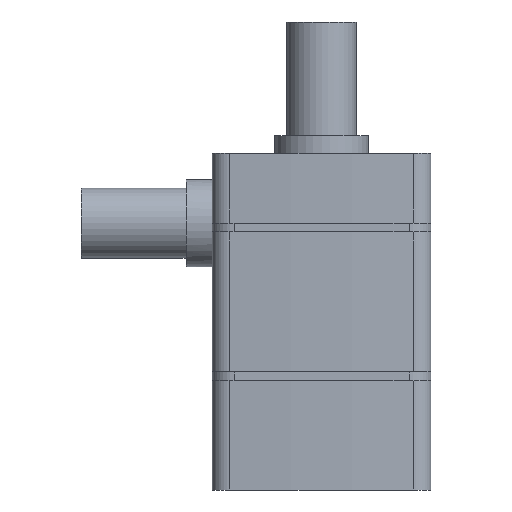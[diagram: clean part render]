
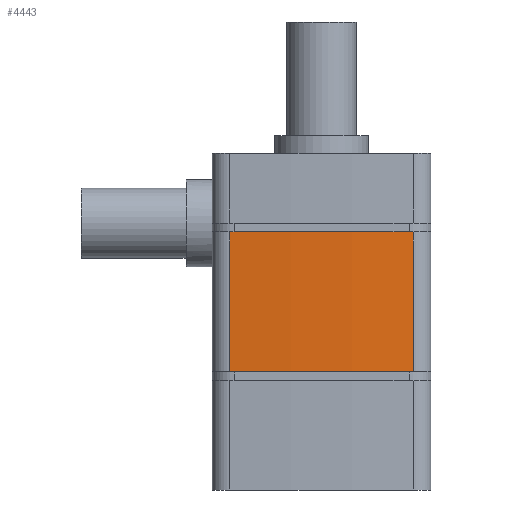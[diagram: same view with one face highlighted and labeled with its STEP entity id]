
A CAD part, front view. The second image highlights one B-rep face of the part: STEP entity #4443.
In plain terms, the highlighted cylindrical face has radius 137.567 mm (diameter 275.134 mm), a partial arc.
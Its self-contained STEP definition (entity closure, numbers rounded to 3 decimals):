
#1307 = CYLINDRICAL_SURFACE('',#1308,2.);
#1308 = AXIS2_PLACEMENT_3D('',#1309,#1310,#1311);
#1309 = CARTESIAN_POINT('',(10.5,-14.,0.));
#1310 = DIRECTION('',(-0.,-0.,-1.));
#1311 = DIRECTION('',(1.,0.,0.));
#1804 = CYLINDRICAL_SURFACE('',#1805,2.);
#1805 = AXIS2_PLACEMENT_3D('',#1806,#1807,#1808);
#1806 = CARTESIAN_POINT('',(-10.5,-14.,0.));
#1807 = DIRECTION('',(-0.,-0.,-1.));
#1808 = DIRECTION('',(1.,0.,0.));
#3255 = VERTEX_POINT('',#3256);
#3256 = CARTESIAN_POINT('',(10.5,-16.,13.5));
#3271 = PLANE('',#3272);
#3272 = AXIS2_PLACEMENT_3D('',#3273,#3274,#3275);
#3273 = CARTESIAN_POINT('',(0.,-14.442,13.5));
#3274 = DIRECTION('',(0.,0.,1.));
#3275 = DIRECTION('',(1.,0.,0.));
#3287 = EDGE_CURVE('',#3255,#3288,#3290,.T.);
#3288 = VERTEX_POINT('',#3289);
#3289 = CARTESIAN_POINT('',(10.5,-16.,29.5));
#3290 = SURFACE_CURVE('',#3291,(#3295,#3302),.PCURVE_S1.);
#3291 = LINE('',#3292,#3293);
#3292 = CARTESIAN_POINT('',(10.5,-16.,0.));
#3293 = VECTOR('',#3294,1.);
#3294 = DIRECTION('',(0.,0.,1.));
#3295 = PCURVE('',#1307,#3296);
#3296 = DEFINITIONAL_REPRESENTATION('',(#3297),#3301);
#3297 = LINE('',#3298,#3299);
#3298 = CARTESIAN_POINT('',(-4.712,0.));
#3299 = VECTOR('',#3300,1.);
#3300 = DIRECTION('',(-0.,-1.));
#3301 = ( GEOMETRIC_REPRESENTATION_CONTEXT(2) 
PARAMETRIC_REPRESENTATION_CONTEXT() REPRESENTATION_CONTEXT('2D SPACE',''
  ) );
#3302 = PCURVE('',#3303,#3308);
#3303 = CYLINDRICAL_SURFACE('',#3304,137.567);
#3304 = AXIS2_PLACEMENT_3D('',#3305,#3306,#3307);
#3305 = CARTESIAN_POINT('',(0.,121.166,0.));
#3306 = DIRECTION('',(-0.,-0.,-1.));
#3307 = DIRECTION('',(1.,0.,0.));
#3308 = DEFINITIONAL_REPRESENTATION('',(#3309),#3313);
#3309 = LINE('',#3310,#3311);
#3310 = CARTESIAN_POINT('',(-4.789,0.));
#3311 = VECTOR('',#3312,1.);
#3312 = DIRECTION('',(-0.,-1.));
#3313 = ( GEOMETRIC_REPRESENTATION_CONTEXT(2) 
PARAMETRIC_REPRESENTATION_CONTEXT() REPRESENTATION_CONTEXT('2D SPACE',''
  ) );
#3330 = PLANE('',#3331);
#3331 = AXIS2_PLACEMENT_3D('',#3332,#3333,#3334);
#3332 = CARTESIAN_POINT('',(0.,-14.442,29.5));
#3333 = DIRECTION('',(0.,0.,1.));
#3334 = DIRECTION('',(0.,1.,0.));
#3551 = VERTEX_POINT('',#3552);
#3552 = CARTESIAN_POINT('',(-10.5,-16.,13.5));
#3580 = VERTEX_POINT('',#3581);
#3581 = CARTESIAN_POINT('',(-10.5,-16.,29.5));
#3607 = EDGE_CURVE('',#3551,#3580,#3608,.T.);
#3608 = SURFACE_CURVE('',#3609,(#3613,#3620),.PCURVE_S1.);
#3609 = LINE('',#3610,#3611);
#3610 = CARTESIAN_POINT('',(-10.5,-16.,0.));
#3611 = VECTOR('',#3612,1.);
#3612 = DIRECTION('',(0.,0.,1.));
#3613 = PCURVE('',#1804,#3614);
#3614 = DEFINITIONAL_REPRESENTATION('',(#3615),#3619);
#3615 = LINE('',#3616,#3617);
#3616 = CARTESIAN_POINT('',(-4.712,0.));
#3617 = VECTOR('',#3618,1.);
#3618 = DIRECTION('',(-0.,-1.));
#3619 = ( GEOMETRIC_REPRESENTATION_CONTEXT(2) 
PARAMETRIC_REPRESENTATION_CONTEXT() REPRESENTATION_CONTEXT('2D SPACE',''
  ) );
#3620 = PCURVE('',#3303,#3621);
#3621 = DEFINITIONAL_REPRESENTATION('',(#3622),#3626);
#3622 = LINE('',#3623,#3624);
#3623 = CARTESIAN_POINT('',(-4.636,0.));
#3624 = VECTOR('',#3625,1.);
#3625 = DIRECTION('',(-0.,-1.));
#3626 = ( GEOMETRIC_REPRESENTATION_CONTEXT(2) 
PARAMETRIC_REPRESENTATION_CONTEXT() REPRESENTATION_CONTEXT('2D SPACE',''
  ) );
#4250 = EDGE_CURVE('',#3255,#3551,#4251,.T.);
#4251 = SURFACE_CURVE('',#4252,(#4257,#4268),.PCURVE_S1.);
#4252 = CIRCLE('',#4253,137.567);
#4253 = AXIS2_PLACEMENT_3D('',#4254,#4255,#4256);
#4254 = CARTESIAN_POINT('',(0.,121.166,13.5));
#4255 = DIRECTION('',(0.,0.,-1.));
#4256 = DIRECTION('',(1.,0.,0.));
#4257 = PCURVE('',#3271,#4258);
#4258 = DEFINITIONAL_REPRESENTATION('',(#4259),#4267);
#4259 = ( BOUNDED_CURVE() B_SPLINE_CURVE(2,(#4260,#4261,#4262,#4263,
#4264,#4265,#4266),.UNSPECIFIED.,.T.,.F.) B_SPLINE_CURVE_WITH_KNOTS((1,2
    ,2,2,2,1),(-2.094,0.,2.094,4.189,
6.283,8.378),.UNSPECIFIED.) CURVE() 
GEOMETRIC_REPRESENTATION_ITEM() RATIONAL_B_SPLINE_CURVE((1.,0.5,1.,0.5,
1.,0.5,1.)) REPRESENTATION_ITEM('') );
#4260 = CARTESIAN_POINT('',(137.567,135.608));
#4261 = CARTESIAN_POINT('',(137.567,-102.665));
#4262 = CARTESIAN_POINT('',(-68.783,16.471));
#4263 = CARTESIAN_POINT('',(-275.134,135.608));
#4264 = CARTESIAN_POINT('',(-68.783,254.744));
#4265 = CARTESIAN_POINT('',(137.567,373.88));
#4266 = CARTESIAN_POINT('',(137.567,135.608));
#4267 = ( GEOMETRIC_REPRESENTATION_CONTEXT(2) 
PARAMETRIC_REPRESENTATION_CONTEXT() REPRESENTATION_CONTEXT('2D SPACE',''
  ) );
#4268 = PCURVE('',#3303,#4269);
#4269 = DEFINITIONAL_REPRESENTATION('',(#4270),#4274);
#4270 = LINE('',#4271,#4272);
#4271 = CARTESIAN_POINT('',(-6.283,-13.5));
#4272 = VECTOR('',#4273,1.);
#4273 = DIRECTION('',(1.,-0.));
#4274 = ( GEOMETRIC_REPRESENTATION_CONTEXT(2) 
PARAMETRIC_REPRESENTATION_CONTEXT() REPRESENTATION_CONTEXT('2D SPACE',''
  ) );
#4396 = EDGE_CURVE('',#3288,#3580,#4397,.T.);
#4397 = SURFACE_CURVE('',#4398,(#4403,#4414),.PCURVE_S1.);
#4398 = CIRCLE('',#4399,137.567);
#4399 = AXIS2_PLACEMENT_3D('',#4400,#4401,#4402);
#4400 = CARTESIAN_POINT('',(0.,121.166,29.5));
#4401 = DIRECTION('',(0.,0.,-1.));
#4402 = DIRECTION('',(1.,0.,0.));
#4403 = PCURVE('',#3330,#4404);
#4404 = DEFINITIONAL_REPRESENTATION('',(#4405),#4413);
#4405 = ( BOUNDED_CURVE() B_SPLINE_CURVE(2,(#4406,#4407,#4408,#4409,
#4410,#4411,#4412),.UNSPECIFIED.,.T.,.F.) B_SPLINE_CURVE_WITH_KNOTS((1,2
    ,2,2,2,1),(-2.094,0.,2.094,4.189,
6.283,8.378),.UNSPECIFIED.) CURVE() 
GEOMETRIC_REPRESENTATION_ITEM() RATIONAL_B_SPLINE_CURVE((1.,0.5,1.,0.5,
1.,0.5,1.)) REPRESENTATION_ITEM('') );
#4406 = CARTESIAN_POINT('',(135.608,-137.567));
#4407 = CARTESIAN_POINT('',(-102.665,-137.567));
#4408 = CARTESIAN_POINT('',(16.471,68.783));
#4409 = CARTESIAN_POINT('',(135.608,275.134));
#4410 = CARTESIAN_POINT('',(254.744,68.783));
#4411 = CARTESIAN_POINT('',(373.88,-137.567));
#4412 = CARTESIAN_POINT('',(135.608,-137.567));
#4413 = ( GEOMETRIC_REPRESENTATION_CONTEXT(2) 
PARAMETRIC_REPRESENTATION_CONTEXT() REPRESENTATION_CONTEXT('2D SPACE',''
  ) );
#4414 = PCURVE('',#3303,#4415);
#4415 = DEFINITIONAL_REPRESENTATION('',(#4416),#4420);
#4416 = LINE('',#4417,#4418);
#4417 = CARTESIAN_POINT('',(-6.283,-29.5));
#4418 = VECTOR('',#4419,1.);
#4419 = DIRECTION('',(1.,-0.));
#4420 = ( GEOMETRIC_REPRESENTATION_CONTEXT(2) 
PARAMETRIC_REPRESENTATION_CONTEXT() REPRESENTATION_CONTEXT('2D SPACE',''
  ) );
#4443 = ADVANCED_FACE('',(#4444),#3303,.T.);
#4444 = FACE_BOUND('',#4445,.F.);
#4445 = EDGE_LOOP('',(#4446,#4447,#4448,#4449));
#4446 = ORIENTED_EDGE('',*,*,#4250,.T.);
#4447 = ORIENTED_EDGE('',*,*,#3607,.T.);
#4448 = ORIENTED_EDGE('',*,*,#4396,.F.);
#4449 = ORIENTED_EDGE('',*,*,#3287,.F.);
